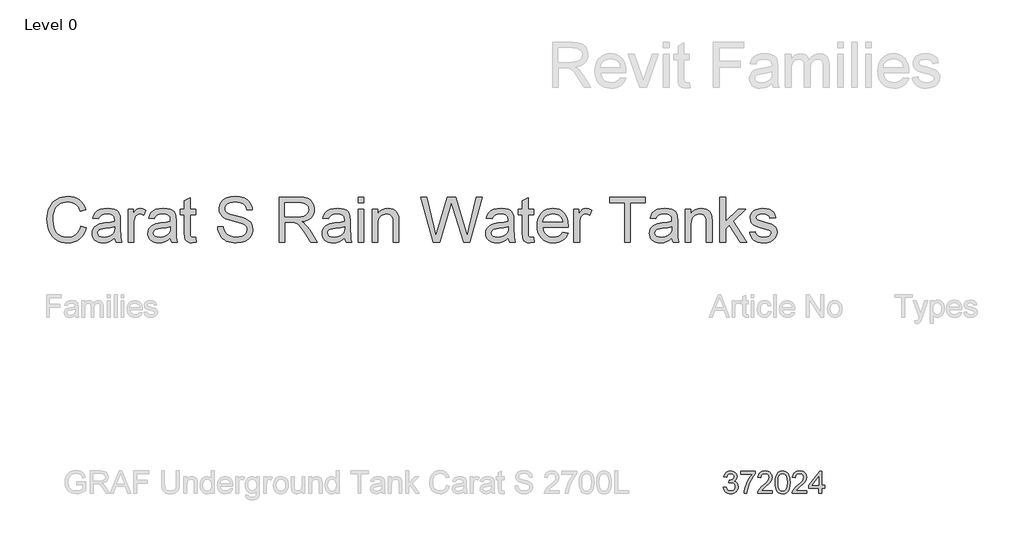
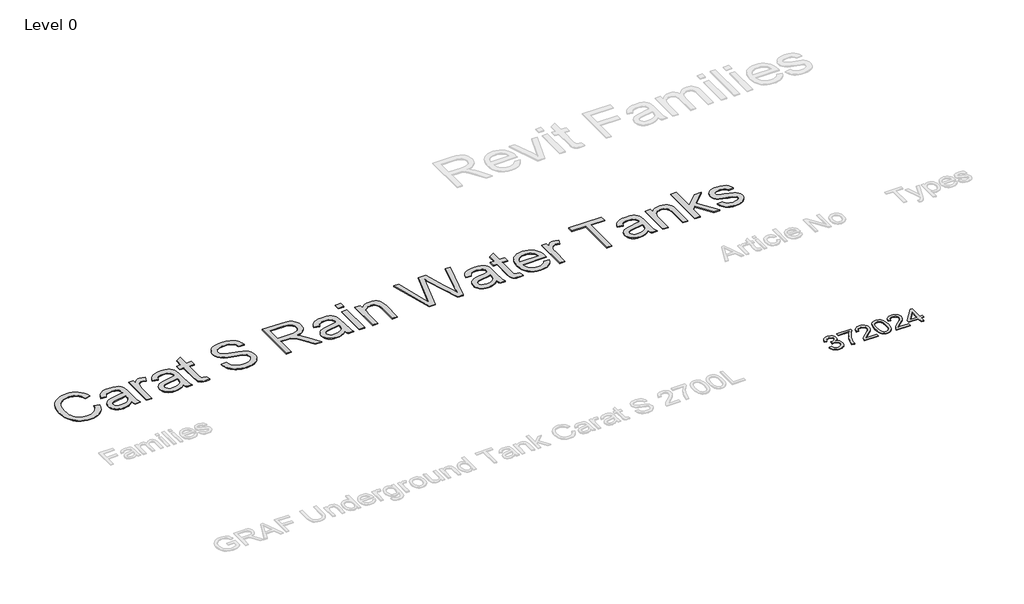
# One storey, part 19 of 20: 2 proxies.
"""IFC4 building model written with IfcOpenShell, lengths in millimetres."""

from ifc_helpers import new_model, si_unit, origin, origin_with_axes, place, context, project, spatial, polyline, outline, extrude, element, save

model = new_model("IFC4")

# Units and contexts
model_context = context("Model", 3, world=origin())
ifc_project = project(units=[si_unit("LENGTHUNIT", "METRE", prefix="MILLI")], contexts=[model_context])

# Site, building, storey
site = spatial("IfcSite", under=ifc_project)
building = spatial("IfcBuilding", under=site)
storey = spatial("IfcBuildingStorey", under=building, Name="Level 0", Elevation=0.0)

# Proxies
placement = place(None, origin())
element("IfcBuildingElementProxy", 1, Name="300mm Arial", ObjectType="300mm Arial", at=placement, inside=storey, context=model_context, shape_type="SweptSolid", body=[
    extrude(outline(polyline([(-6346.595864, 9379.074324), (-6308.9247477, 9383.7832135), (-6300.491053, 9360.1100071), (-6288.139415, 9344.1255344), (-6271.2628285, 9335.020455), (-6249.2542881, 9331.9854286), (-6223.428972, 9336.1608892), (-6203.4897679, 9348.6872712), (-6190.7426568, 9367.3756765), (-6186.4936197, 9390.0372074), (-6190.7058686, 9411.5491071), (-6203.3426151, 9428.9959107), (-6222.4724789, 9440.5566024), (-6246.1640793, 9444.4101663), (-6272.5780066, 9440.289888), (-6268.3841519, 9477.9610043), (-6262.3508871, 9477.5195459), (-6239.7813267, 9480.2234785), (-6219.6029993, 9488.3352765), (-6205.3659661, 9502.057275), (-6200.6202883, 9521.5918089), (-6204.059985, 9537.8613901), (-6214.379075, 9551.0591567), (-6230.1244244, 9559.8055512), (-6249.8428993, 9562.721016), (-6269.5981624, 9559.77796), (-6285.748182, 9550.9487921), (-6297.5388, 9536.2335123), (-6304.2158582, 9515.6321206), (-6341.8869745, 9520.3410101), (-6330.7953323, 9554.1677596), (-6311.0584633, 9579.4228585), (-6284.0559248, 9595.1498138), (-6251.1672745, 9600.3921323), (-6227.484871, 9597.8077613), (-6205.7338481, 9590.0546482), (-6187.3949306, 9577.8225719), (-6173.9488437, 9561.801311), (-6165.69909, 9543.3428319), (-6162.949172, 9523.7991009), (-6165.5611342, 9505.5889421), (-6173.3970207, 9489.0710405), (-6186.3464669, 9474.9995542), (-6204.2991083, 9464.1286413), (-6180.7178724, 9454.6004976), (-6163.2434776, 9438.3769016), (-6152.427747, 9416.3407701), (-6148.8225034, 9389.3750198), (-6150.6251252, 9370.2635502), (-6156.0329905, 9352.6603967), (-6165.0460994, 9336.5655594), (-6177.6644518, 9321.9790383), (-6193.0373207, 9309.8757207), (-6210.3139789, 9301.2304938), (-6229.4944264, 9296.0433577), (-6250.5786633, 9294.3143123), (-6269.6349506, 9295.7904388), (-6286.9989808, 9300.2188183), (-6302.6707538, 9307.5994508), (-6316.6502696, 9317.9323364), (-6328.3719097, 9330.6104696), (-6337.2700555, 9345.0268453), (-6343.3447069, 9361.1814634), (-6346.595864, 9379.074324)])), origin_with_axes(), (0.0, 0.0, 1.0), 10.0),
    extrude(outline(polyline([(-6115.8602767, 9558.0121264), (-6115.8602767, 9595.6832427), (-5918.086916, 9595.6832427), (-5918.086916, 9565.2226135), (-5946.2758739, 9529.547257), (-5974.1889203, 9484.17821), (-5998.8094228, 9433.2541448), (-6017.1207491, 9380.9137339), (-6026.0970698, 9341.7526956), (-6031.100265, 9299.0232018), (-6068.7713813, 9299.0232018), (-6064.6970882, 9337.8531464), (-6053.7985841, 9384.0039427), (-6036.3701745, 9432.923051), (-6012.7061652, 9480.0579316), (-5985.0782274, 9522.6678637), (-5955.7580324, 9558.0121264), (-6115.8602767, 9558.0121264)])), origin_with_axes(), (0.0, 0.0, 1.0), 10.0),
    extrude(outline(polyline([(-5692.0602182, 9336.6943181), (-5692.0602182, 9299.0232018), (-5889.8335788, 9299.0232018), (-5885.7868769, 9324.9956707), (-5876.4978565, 9345.2935598), (-5862.9046168, 9364.9844436), (-5843.2413241, 9385.5950323), (-5815.742145, 9408.6520364), (-5775.0911845, 9444.7596542), (-5750.7006082, 9471.4127048), (-5738.5053201, 9493.0441661), (-5734.4402241, 9514.0870162), (-5738.2753939, 9532.9501655), (-5749.7809033, 9548.6311355), (-5767.4668302, 9559.1985459), (-5789.8432525, 9562.721016), (-5813.341715, 9559.2813193), (-5831.597859, 9548.9622293), (-5843.3792799, 9532.5730865), (-5847.453573, 9510.923231), (-5885.1246893, 9515.6321206), (-5875.9920187, 9552.0708322), (-5867.4456601, 9566.6067695), (-5856.2459527, 9578.6870946), (-5842.6504137, 9588.1830486), (-5826.9165606, 9594.9658728), (-5789.0339121, 9600.3921323), (-5768.8440884, 9598.8838161), (-5750.8753522, 9594.3588675), (-5735.1277035, 9586.8172866), (-5721.6011424, 9576.2590734), (-5710.7371273, 9563.465977), (-5702.9771164, 9549.2197467), (-5698.3211099, 9533.5203826), (-5696.7691077, 9516.3678846), (-5698.4429708, 9498.3508639), (-5703.4645601, 9480.6465428), (-5712.3765014, 9462.6387192), (-5725.7214208, 9443.7111905), (-5746.9941971, 9421.114039), (-5779.6897095, 9392.0973466), (-5823.0262085, 9355.8609701), (-5840.0223567, 9336.6943181), (-5692.0602182, 9336.6943181)])), origin_with_axes(), (0.0, 0.0, 1.0), 10.0),
    extrude(outline(polyline([(-5654.3891019, 9447.2796459), (-5651.6207899, 9495.5181725), (-5643.3158539, 9533.9894321), (-5629.5570672, 9563.282036), (-5610.4272035, 9583.9845953), (-5585.7883069, 9596.290248), (-5555.5024216, 9600.3921323), (-5532.2890677, 9597.9641111), (-5511.503735, 9590.6800476), (-5494.1213107, 9578.8250503), (-5481.1166822, 9562.6842278), (-5471.2942329, 9542.3955357), (-5463.4583464, 9518.0969299), (-5458.3263926, 9487.2408276), (-5456.6157413, 9447.2796459), (-5459.3564622, 9399.3170308), (-5467.5786248, 9360.9377416), (-5481.2546379, 9331.6175466), (-5500.3569105, 9310.8322139), (-5525.0509895, 9298.4437877), (-5555.5024216, 9294.3143123), (-5576.2509661, 9296.107737), (-5594.6450659, 9301.4880112), (-5610.6847209, 9310.4551348), (-5624.3699311, 9323.0091079), (-5637.5033183, 9345.7028285), (-5646.8843092, 9373.9791583), (-5652.5129037, 9407.8380975), (-5654.3891019, 9447.2796459)]), holes=[polyline([(-5616.7179856, 9447.3532223), (-5612.3034017, 9388.0966299), (-5606.7851717, 9367.8286312), (-5599.0596498, 9353.8008309), (-5579.3411749, 9337.4392792), (-5555.5024216, 9331.9854286), (-5531.6636683, 9337.4576733), (-5511.9451934, 9353.8744073), (-5504.2196715, 9367.9252003), (-5498.7014415, 9388.1886004), (-5494.2868576, 9447.3532223), (-5498.5542887, 9505.2762424), (-5503.8885777, 9525.4775625), (-5511.3565822, 9539.8387559), (-5531.0382689, 9557.0004509), (-5555.94388, 9562.721016), (-5579.5251159, 9557.6810326), (-5598.4710386, 9542.5610826), (-5606.4540779, 9526.9260978), (-5612.1562489, 9505.8464595), (-5616.7179856, 9447.3532223)])]), origin_with_axes(), (0.0, 0.0, 1.0), 10.0),
    extrude(outline(polyline([(-5230.5890435, 9336.6943181), (-5230.5890435, 9299.0232018), (-5428.3624041, 9299.0232018), (-5424.3157021, 9324.9956707), (-5415.0266817, 9345.2935598), (-5401.433442, 9364.9844436), (-5381.7701494, 9385.5950323), (-5354.2709702, 9408.6520364), (-5313.6200098, 9444.7596542), (-5289.2294335, 9471.4127048), (-5277.0341454, 9493.0441661), (-5272.9690493, 9514.0870162), (-5276.8042191, 9532.9501655), (-5288.3097285, 9548.6311355), (-5305.9956554, 9559.1985459), (-5328.3720778, 9562.721016), (-5351.8705402, 9559.2813193), (-5370.1266842, 9548.9622293), (-5381.9081051, 9532.5730865), (-5385.9823982, 9510.923231), (-5423.6535145, 9515.6321206), (-5414.520844, 9552.0708322), (-5405.9744854, 9566.6067695), (-5394.7747779, 9578.6870946), (-5381.1792389, 9588.1830486), (-5365.4453858, 9594.9658728), (-5327.5627374, 9600.3921323), (-5307.3729136, 9598.8838161), (-5289.4041774, 9594.3588675), (-5273.6565288, 9586.8172866), (-5260.1299677, 9576.2590734), (-5249.2659525, 9563.465977), (-5241.5059417, 9549.2197467), (-5236.8499352, 9533.5203826), (-5235.297933, 9516.3678846), (-5236.9717961, 9498.3508639), (-5241.9933853, 9480.6465428), (-5250.9053266, 9462.6387192), (-5264.250246, 9443.7111905), (-5285.5230224, 9421.114039), (-5318.2185347, 9392.0973466), (-5361.5550337, 9355.8609701), (-5378.5511819, 9336.6943181), (-5230.5890435, 9336.6943181)])), origin_with_axes(), (0.0, 0.0, 1.0), 10.0),
    extrude(outline(polyline([(-5070.4867992, 9299.0232018), (-5070.4867992, 9369.6565449), (-5207.0445958, 9369.6565449), (-5207.0445958, 9407.3276612), (-5061.0690201, 9595.6832427), (-5032.8156829, 9595.6832427), (-5032.8156829, 9407.3276612), (-4995.1445665, 9407.3276612), (-4995.1445665, 9369.6565449), (-5032.8156829, 9369.6565449), (-5032.8156829, 9299.0232018), (-5070.4867992, 9299.0232018)]), holes=[polyline([(-5070.4867992, 9407.3276612), (-5070.4867992, 9523.7255245), (-5160.6914644, 9407.3276612), (-5070.4867992, 9407.3276612)])]), origin_with_axes(), (0.0, 0.0, 1.0), 10.0),
])
element("IfcBuildingElementProxy", 2, Name="600mm Arial", ObjectType="600mm Arial", at=placement, inside=storey, context=model_context, shape_type="SweptSolid", body=[
    extrude(outline(polyline([(-14925.4984397, 12868.0819293), (-14850.1562071, 12848.65776), (-14865.0646249, 12801.8033894), (-14884.9210556, 12760.8627218), (-14909.7254991, 12725.8357574), (-14939.4779555, 12696.722496), (-14973.50704, 12673.8356373), (-15011.1413681, 12657.4878812), (-15052.3809398, 12647.6792275), (-15097.225755, 12644.4096763), (-15143.1696177, 12646.8836827), (-15184.616123, 12654.3057019), (-15221.5652709, 12666.675734), (-15254.0170614, 12683.9937789), (-15282.4175514, 12706.0023193), (-15307.2127979, 12732.4438377), (-15328.4028008, 12763.3183341), (-15345.9875602, 12798.6258086), (-15359.7969306, 12836.8395509), (-15369.6607665, 12876.4328506), (-15375.5790681, 12917.4057078), (-15377.5518353, 12959.7581225), (-15375.3215507, 13005.200746), (-15368.630697, 13047.6451312), (-15357.479274, 13087.0912781), (-15341.8672818, 13123.5391868), (-15322.1442083, 13156.3864504), (-15298.6595415, 13185.0306623), (-15271.4132812, 13209.4718223), (-15240.4054275, 13229.7099306), (-15206.6890427, 13245.5794402), (-15171.3171888, 13256.9148041), (-15134.289866, 13263.7160225), (-15095.6070742, 13265.9830953), (-15052.514297, 13263.0492364), (-15012.9991722, 13254.2476597), (-14977.0616998, 13239.5783651), (-14944.7018798, 13219.0413527), (-14916.4531411, 13193.1792485), (-14892.8489126, 13162.5346783), (-14873.8891943, 13127.1076421), (-14859.5739861, 13086.8981401), (-14934.9162187, 13068.9454987), (-14946.7804131, 13098.5737949), (-14961.0358404, 13123.8886747), (-14977.6825007, 13144.8901381), (-14996.7203939, 13161.5781851), (-15018.2598848, 13174.2931065), (-15042.4113377, 13183.3751933), (-15069.1747529, 13188.8244453), (-15098.5501302, 13190.6408627), (-15132.3492885, 13188.6267088), (-15163.2605732, 13182.584247), (-15191.2839841, 13172.5134774), (-15216.4195215, 13158.4143999), (-15238.3498869, 13140.921611), (-15256.7577822, 13120.6697072), (-15271.6432075, 13097.6586884), (-15283.0061626, 13071.8885547), (-15297.4087427, 13016.7430436), (-15302.2096027, 12959.9052753), (-15296.5258259, 12890.3020018), (-15289.4211049, 12859.0320322), (-15279.4744954, 12830.1165074), (-15266.5250492, 12804.130243), (-15250.4118178, 12781.6480546), (-15231.1348013, 12762.6699421), (-15208.6939996, 12747.1959057), (-15184.1792631, 12735.1891571), (-15158.6804423, 12726.6129081), (-15132.1975372, 12721.4671587), (-15104.7305477, 12719.7519089), (-15071.9752546, 12722.0879595), (-15041.8411206, 12729.0961115), (-15014.3281459, 12740.7763649), (-14989.4363304, 12757.1287196), (-14967.7542853, 12778.0795992), (-14949.8706219, 12803.5554274), (-14935.78534, 12833.5562041), (-14925.4984397, 12868.0819293)])), origin_with_axes(), (0.0, 0.0, 1.0), 10.0),
    extrude(outline(polyline([(-14473.445044, 12710.3341298), (-14509.4422972, 12679.4688304), (-14546.5064082, 12659.2721089), (-14585.4835056, 12648.1252844), (-14627.219718, 12644.4096763), (-14660.7659574, 12646.6445594), (-14690.1827215, 12653.3492087), (-14715.4700101, 12664.5236243), (-14736.6278233, 12680.1678062), (-14753.3342645, 12699.2884729), (-14765.2674367, 12720.8923431), (-14772.42734, 12744.9794167), (-14774.8139744, 12771.5496938), (-14771.2087309, 12802.7828752), (-14760.3930002, 12831.146577), (-14743.7095518, 12855.4267887), (-14722.5011547, 12874.4094996), (-14697.5771496, 12888.7568975), (-14669.7468766, 12899.1311697), (-14604.5581871, 12910.4619352), (-14527.5236973, 12922.3813118), (-14473.8865024, 12936.3608276), (-14473.445044, 12953.1362466), (-14478.6321801, 12986.760661), (-14485.1161003, 12999.2134665), (-14494.1935885, 13008.7600043), (-14509.8837556, 13018.288148), (-14528.9952253, 13025.0939649), (-14577.4820722, 13030.5386184), (-14622.3636756, 13026.9149807), (-14653.7072216, 13016.0440678), (-14675.0811656, 12995.9393167), (-14690.0539628, 12964.6141649), (-14765.3961954, 12974.0319439), (-14752.3179904, 13015.2347274), (-14732.8018506, 13047.608343), (-14705.02676, 13072.3668012), (-14667.1717027, 13090.7241128), (-14620.8737536, 13102.0916665), (-14567.7699876, 13105.880851), (-14516.8367253, 13102.5331249), (-14476.4616764, 13092.4899464), (-14446.0194413, 13077.3883905), (-14424.8846206, 13058.865532), (-14410.8683166, 13035.9648778), (-14401.7816313, 13007.7299347), (-14398.1028114, 12941.8054812), (-14398.1028114, 12848.0691488), (-14394.2768386, 12717.1767349), (-14388.6114559, 12684.8215134), (-14379.2672532, 12653.8274553), (-14454.6094858, 12653.8274553), (-14466.6760153, 12680.0206534), (-14473.445044, 12710.3341298)]), holes=[polyline([(-14473.445044, 12861.018595), (-14524.0656065, 12848.473819), (-14594.9932552, 12837.9156057), (-14659.8140628, 12825.7019235), (-14676.6814522, 12817.3510022), (-14689.171046, 12805.8362957), (-14696.8965679, 12792.0407209), (-14699.4717418, 12776.8471945), (-14693.8615414, 12754.443181), (-14677.0309401, 12736.0858695), (-14649.34782, 12723.835399), (-14611.180063, 12719.7519089), (-14570.7130435, 12724.2584633), (-14534.9549136, 12737.7781266), (-14505.9658124, 12757.6989367), (-14485.805879, 12781.4089313), (-14476.8663466, 12805.8362957), (-14473.8865024, 12839.6814393), (-14473.445044, 12861.018595)])]), origin_with_axes(), (0.0, 0.0, 1.0), 10.0),
    extrude(outline(polyline([(-14294.5072415, 12653.8274553), (-14294.5072415, 13096.4630719), (-14228.582788, 13096.4630719), (-14228.582788, 13030.9800768), (-14204.2289999, 13068.9454987), (-14181.7881982, 13091.312724), (-14159.2738201, 13102.2388193), (-14134.6993028, 13105.880851), (-14097.1753393, 13100.0683155), (-14059.0627646, 13082.6307089), (-14084.2258931, 13015.0875746), (-14110.7133968, 13026.6758574), (-14137.2009004, 13030.5386184), (-14159.6968844, 13026.8230102), (-14179.8016354, 13015.6761858), (-14196.0436255, 12997.9442736), (-14206.9513267, 12974.4734023), (-14216.1115884, 12932.3877021), (-14219.1650089, 12886.4760291), (-14219.1650089, 12653.8274553), (-14294.5072415, 12653.8274553)])), origin_with_axes(), (0.0, 0.0, 1.0), 10.0),
    extrude(outline(polyline([(-13729.440497, 12710.3341298), (-13765.4377502, 12679.4688304), (-13802.5018612, 12659.2721089), (-13841.4789586, 12648.1252844), (-13883.2151709, 12644.4096763), (-13916.7614104, 12646.6445594), (-13946.1781744, 12653.3492087), (-13971.4654631, 12664.5236243), (-13992.6232763, 12680.1678062), (-14009.3297174, 12699.2884729), (-14021.2628896, 12720.8923431), (-14028.422793, 12744.9794167), (-14030.8094274, 12771.5496938), (-14027.2041838, 12802.7828752), (-14016.3884532, 12831.146577), (-13999.7050047, 12855.4267887), (-13978.4966077, 12874.4094996), (-13953.5726025, 12888.7568975), (-13925.7423296, 12899.1311697), (-13860.55364, 12910.4619352), (-13783.5191502, 12922.3813118), (-13729.8819553, 12936.3608276), (-13729.440497, 12953.1362466), (-13734.6276331, 12986.760661), (-13741.1115533, 12999.2134665), (-13750.1890415, 13008.7600043), (-13765.8792086, 13018.288148), (-13784.9906782, 13025.0939649), (-13833.4775252, 13030.5386184), (-13878.3591286, 13026.9149807), (-13909.7026746, 13016.0440678), (-13931.0766185, 12995.9393167), (-13946.0494157, 12964.6141649), (-14021.3916483, 12974.0319439), (-14008.3134434, 13015.2347274), (-13988.7973036, 13047.608343), (-13961.0222129, 13072.3668012), (-13923.1671556, 13090.7241128), (-13876.8692065, 13102.0916665), (-13823.7654405, 13105.880851), (-13772.8321783, 13102.5331249), (-13732.4571293, 13092.4899464), (-13702.0148942, 13077.3883905), (-13680.8800736, 13058.865532), (-13666.8637696, 13035.9648778), (-13657.7770843, 13007.7299347), (-13654.0982643, 12941.8054812), (-13654.0982643, 12848.0691488), (-13650.2722916, 12717.1767349), (-13644.6069089, 12684.8215134), (-13635.2627062, 12653.8274553), (-13710.6049388, 12653.8274553), (-13722.6714682, 12680.0206534), (-13729.440497, 12710.3341298)]), holes=[polyline([(-13729.440497, 12861.018595), (-13780.0610595, 12848.473819), (-13850.9887082, 12837.9156057), (-13915.8095157, 12825.7019235), (-13932.6769052, 12817.3510022), (-13945.1664989, 12805.8362957), (-13952.8920208, 12792.0407209), (-13955.4671948, 12776.8471945), (-13949.8569944, 12754.443181), (-13933.0263931, 12736.0858695), (-13905.3432729, 12723.835399), (-13867.1755159, 12719.7519089), (-13826.7084965, 12724.2584633), (-13790.9503665, 12737.7781266), (-13761.9612653, 12757.6989367), (-13741.801332, 12781.4089313), (-13732.8617995, 12805.8362957), (-13729.8819553, 12839.6814393), (-13729.440497, 12861.018595)])]), origin_with_axes(), (0.0, 0.0, 1.0), 10.0),
    extrude(outline(polyline([(-13390.4004502, 12716.6617001), (-13380.9826711, 12651.6201634), (-13437.3421928, 12644.4096763), (-13473.5049929, 12647.5366732), (-13500.4707432, 12656.9176641), (-13519.5270305, 12671.3754265), (-13531.9614419, 12689.7327381), (-13538.8040471, 12721.2602251), (-13541.0849154, 12775.2285137), (-13541.0849154, 13021.1208393), (-13597.5915899, 13021.1208393), (-13597.5915899, 13096.4630719), (-13541.0849154, 13096.4630719), (-13541.0849154, 13204.0317673), (-13465.7426828, 13248.3247595), (-13465.7426828, 13096.4630719), (-13390.4004502, 13096.4630719), (-13390.4004502, 13021.1208393), (-13465.7426828, 13021.1208393), (-13465.7426828, 12777.4358057), (-13461.7695573, 12738.587467), (-13448.8936874, 12724.8286804), (-13438.0227745, 12721.0211018), (-13423.2155242, 12719.7519089), (-13390.4004502, 12716.6617001)])), origin_with_axes(), (0.0, 0.0, 1.0), 10.0),
    extrude(outline(polyline([(-13098.4492988, 12861.018595), (-13023.1070662, 12861.018595), (-13014.4618393, 12819.2088063), (-12998.8268545, 12785.602786), (-12974.4362783, 12758.9313414), (-12939.5242769, 12737.9252794), (-12896.8499655, 12724.2952515), (-12849.1724589, 12719.7519089), (-12807.1971232, 12723.1916055), (-12770.4457119, 12733.5106955), (-12740.6656644, 12749.8446561), (-12719.6044202, 12771.3289646), (-12707.0780383, 12795.9954524), (-12702.9025776, 12821.8759507), (-12706.0295746, 12847.0942615), (-12715.4105654, 12868.8912697), (-12734.4668528, 12887.4877046), (-12766.6197392, 12903.1042953), (-12876.3221501, 12931.8726673), (-12948.3350507, 12950.9105605), (-12994.4122706, 12969.0287488), (-13031.91784, 12994.3758183), (-13058.4973142, 13025.0939649), (-13074.334634, 13060.521001), (-13079.6137407, 13099.9947391), (-13077.9812643, 13122.4309423), (-13073.0838353, 13144.1221844), (-13064.9214535, 13165.0684655), (-13053.494119, 13185.2697856), (-13038.9305905, 13203.9030086), (-13021.3596267, 13220.1449987), (-13000.7812276, 13233.9957558), (-12977.1953932, 13245.45528), (-12924.1835977, 13260.8511415), (-12865.5064195, 13265.9830953), (-12801.9364107, 13260.6120182), (-12746.312653, 13244.4987868), (-12721.9772591, 13232.4966367), (-12700.6217092, 13217.9744949), (-12682.2460036, 13200.9323615), (-12666.8501421, 13181.3702364), (-12654.5536864, 13159.8583368), (-12645.4761982, 13136.9668796), (-12639.6176774, 13112.695865), (-12636.9781241, 13087.0452929), (-12712.3203567, 13087.0452929), (-12717.36034, 13111.0863812), (-12726.1527197, 13132.0004727), (-12738.6974957, 13149.7875671), (-12754.9946681, 13164.4476646), (-12775.3477395, 13175.9071888), (-12800.0602125, 13184.0925632), (-12829.1320872, 13189.0037878), (-12862.5633635, 13190.6408627), (-12897.0614976, 13189.0221819), (-12926.5380425, 13184.1661396), (-12950.9929981, 13176.0727357), (-12970.4263645, 13164.7419702), (-12985.2336148, 13151.1211394), (-12995.8102222, 13136.1575392), (-13002.1561866, 13119.8511698), (-13004.2715081, 13102.2020311), (-13002.7723889, 13087.0177017), (-12998.2750315, 13073.249718), (-12990.7794359, 13060.89808), (-12980.285602, 13049.9627877), (-12963.7677004, 13039.6069096), (-12937.7584433, 13029.1406668), (-12857.2658628, 13007.8770875), (-12774.1981083, 12987.680366), (-12723.9454277, 12970.0588184), (-12680.9952048, 12942.7251861), (-12664.3899312, 12926.65794), (-12651.0312163, 12908.9904072), (-12640.7627101, 12889.8145582), (-12633.4280628, 12869.2223635), (-12627.560345, 12823.7889371), (-12629.2480037, 12800.2214968), (-12634.3109796, 12777.3438352), (-12642.7492729, 12755.1559524), (-12654.5628834, 12733.6578483), (-12669.5448777, 12713.681856), (-12687.488322, 12696.0603084), (-12708.3932164, 12680.7932056), (-12732.2595608, 12667.8805476), (-12758.3929781, 12657.6120414), (-12786.0990908, 12650.2773941), (-12846.2294029, 12644.4096763), (-12884.7696405, 12645.9915688), (-12920.0449253, 12650.7372466), (-12952.0552574, 12658.6467095), (-12980.8006368, 12669.7199575), (-13006.4558074, 12683.9753848), (-13029.1955132, 12701.4313855), (-13049.0197542, 12722.0879595), (-13065.9285305, 12745.9451069), (-13079.5493613, 12772.2302755), (-13089.5097663, 12800.170913), (-13095.8097455, 12829.7670195), (-13098.4492988, 12861.018595)])), origin_with_axes(), (0.0, 0.0, 1.0), 10.0),
    extrude(outline(polyline([(-12279.1025192, 12653.8274553), (-12279.1025192, 13256.5653162), (-12019.3778306, 13256.5653162), (-11949.572222, 13252.5002202), (-11898.7861126, 13240.304932), (-11879.1871993, 13230.6112415), (-11861.6668192, 13217.7905539), (-11846.2249725, 13201.8428694), (-11832.861659, 13182.768188), (-11822.078118, 13161.5919807), (-11814.3755888, 13139.3397185), (-11809.7540712, 13116.0114015), (-11808.2135653, 13091.6070296), (-11810.7657467, 13060.6497597), (-11818.4222907, 13032.2308756), (-11831.1831974, 13006.3503772), (-11849.0484668, 12983.0082646), (-11872.2480251, 12962.9494988), (-11901.0117986, 12946.9190409), (-11935.3397873, 12934.9168908), (-11975.2319912, 12926.9430486), (-11950.3999565, 12910.7194526), (-11932.4105269, 12894.7165858), (-11901.5452275, 12858.1123273), (-11871.3421157, 12817.1670612), (-11770.8367546, 12653.8274553), (-11858.3926695, 12653.8274553), (-11936.8251109, 12778.7601809), (-11993.4789381, 12861.4600534), (-12014.5401823, 12885.5747182), (-12033.28377, 12900.5291213), (-12069.1154763, 12914.8765191), (-12112.8198573, 12917.5252695), (-12203.7602866, 12917.5252695), (-12203.7602866, 12653.8274553), (-12279.1025192, 12653.8274553)]), holes=[polyline([(-12203.7602866, 12992.8675021), (-12035.12318, 12992.8675021), (-11986.6915153, 12995.5346466), (-11949.1123695, 13003.5360799), (-11920.8222441, 13017.4052312), (-11900.2576405, 13037.6755291), (-11887.7312586, 13062.1948641), (-11883.555798, 13088.8111264), (-11885.5469593, 13108.0789459), (-11891.5204432, 13125.5625378), (-11901.4762496, 13141.2619019), (-11915.4143787, 13155.1770384), (-11933.6567272, 13166.5721832), (-11956.5251917, 13174.7115723), (-11984.0197723, 13179.5952058), (-12016.140469, 13181.2230836), (-12203.7602866, 13181.2230836), (-12203.7602866, 12992.8675021)])]), origin_with_axes(), (0.0, 0.0, 1.0), 10.0),
    extrude(outline(polyline([(-11403.2490651, 12710.3341298), (-11439.2463183, 12679.4688304), (-11476.3104293, 12659.2721089), (-11515.2875267, 12648.1252844), (-11557.023739, 12644.4096763), (-11590.5699785, 12646.6445594), (-11619.9867425, 12653.3492087), (-11645.2740312, 12664.5236243), (-11666.4318444, 12680.1678062), (-11683.1382855, 12699.2884729), (-11695.0714577, 12720.8923431), (-11702.2313611, 12744.9794167), (-11704.6179955, 12771.5496938), (-11701.0127519, 12802.7828752), (-11690.1970213, 12831.146577), (-11673.5135728, 12855.4267887), (-11652.3051758, 12874.4094996), (-11627.3811706, 12888.7568975), (-11599.5508977, 12899.1311697), (-11534.3622081, 12910.4619352), (-11457.3277183, 12922.3813118), (-11403.6905234, 12936.3608276), (-11403.2490651, 12953.1362466), (-11408.4362012, 12986.760661), (-11414.9201213, 12999.2134665), (-11423.9976096, 13008.7600043), (-11439.6877767, 13018.288148), (-11458.7992463, 13025.0939649), (-11507.2860933, 13030.5386184), (-11552.1676967, 13026.9149807), (-11583.5112427, 13016.0440678), (-11604.8851866, 12995.9393167), (-11619.8579838, 12964.6141649), (-11695.2002164, 12974.0319439), (-11682.1220115, 13015.2347274), (-11662.6058717, 13047.608343), (-11634.830781, 13072.3668012), (-11596.9757237, 13090.7241128), (-11550.6777746, 13102.0916665), (-11497.5740086, 13105.880851), (-11446.6407464, 13102.5331249), (-11406.2656974, 13092.4899464), (-11375.8234623, 13077.3883905), (-11354.6886417, 13058.865532), (-11340.6723377, 13035.9648778), (-11331.5856524, 13007.7299347), (-11327.9068324, 12941.8054812), (-11327.9068324, 12848.0691488), (-11324.0808597, 12717.1767349), (-11318.415477, 12684.8215134), (-11309.0712743, 12653.8274553), (-11384.4135069, 12653.8274553), (-11396.4800363, 12680.0206534), (-11403.2490651, 12710.3341298)]), holes=[polyline([(-11403.2490651, 12861.018595), (-11453.8696276, 12848.473819), (-11524.7972763, 12837.9156057), (-11589.6180838, 12825.7019235), (-11606.4854733, 12817.3510022), (-11618.975067, 12805.8362957), (-11626.7005889, 12792.0407209), (-11629.2757629, 12776.8471945), (-11623.6655625, 12754.443181), (-11606.8349612, 12736.0858695), (-11579.151841, 12723.835399), (-11540.984084, 12719.7519089), (-11500.5170646, 12724.2584633), (-11464.7589346, 12737.7781266), (-11435.7698334, 12757.6989367), (-11415.6099001, 12781.4089313), (-11406.6703676, 12805.8362957), (-11403.6905234, 12839.6814393), (-11403.2490651, 12861.018595)])]), origin_with_axes(), (0.0, 0.0, 1.0), 10.0),
    extrude(outline(polyline([(-11224.3112626, 13181.2230836), (-11224.3112626, 13256.5653162), (-11148.96903, 13256.5653162), (-11148.96903, 13181.2230836), (-11224.3112626, 13181.2230836)])), origin_with_axes(), (0.0, 0.0, 1.0), 10.0),
    extrude(outline(polyline([(-11224.3112626, 12653.8274553), (-11224.3112626, 13096.4630719), (-11148.96903, 13096.4630719), (-11148.96903, 12653.8274553), (-11224.3112626, 12653.8274553)])), origin_with_axes(), (0.0, 0.0, 1.0), 10.0),
    extrude(outline(polyline([(-11035.9556811, 12653.8274553), (-11035.9556811, 13096.4630719), (-10960.6134485, 13096.4630719), (-10960.6134485, 13034.6588967), (-10934.4386445, 13065.8185017), (-10903.003128, 13088.0753624), (-10866.306899, 13101.4294789), (-10824.3499574, 13105.880851), (-10787.21227, 13102.2940016), (-10753.2015796, 13091.5334532), (-10724.8378777, 13074.9419752), (-10704.6411562, 13053.8623369), (-10690.9375519, 13028.3497205), (-10682.0532017, 12998.4593084), (-10678.0800762, 12925.6186734), (-10678.0800762, 12653.8274553), (-10753.4223088, 12653.8274553), (-10753.4223088, 12915.4651303), (-10755.5928125, 12954.4238336), (-10762.1043239, 12982.1253478), (-10774.115671, 13001.9725815), (-10792.7856823, 13017.368443), (-10816.716406, 13027.2460745), (-10844.5098908, 13030.5386184), (-10867.3875524, 13028.6900114), (-10888.6373361, 13023.1441903), (-10908.259242, 13013.9011552), (-10926.2532701, 13000.960906), (-10941.2858481, 12982.8519148), (-10952.0234039, 12958.1026535), (-10958.4659373, 12926.7131223), (-10960.6134485, 12888.6833211), (-10960.6134485, 12653.8274553), (-11035.9556811, 12653.8274553)])), origin_with_axes(), (0.0, 0.0, 1.0), 10.0),
    extrude(outline(polyline([(-10221.7592493, 12653.8274553), (-10386.1289248, 13256.5653162), (-10308.4322474, 13256.5653162), (-10213.0772343, 12860.4299838), (-10183.6466746, 12738.1460086), (-10152.1559759, 12846.3033152), (-10032.6679038, 13256.5653162), (-9920.6846245, 13256.5653162), (-9833.8644736, 12959.1695113), (-9796.6716039, 12848.8049128), (-9769.2643953, 12738.1460086), (-9740.7167524, 12856.8983167), (-9644.4788225, 13256.5653162), (-9566.7821451, 13256.5653162), (-9731.2989734, 12653.8274553), (-9811.7915539, 12653.8274553), (-9956.2956016, 13118.8302972), (-9976.455535, 13183.7246812), (-9999.1170659, 13105.5865454), (-10130.8188201, 12653.8274553), (-10221.7592493, 12653.8274553)])), origin_with_axes(), (0.0, 0.0, 1.0), 10.0),
    extrude(outline(polyline([(-9218.3243193, 12710.3341298), (-9254.3215725, 12679.4688304), (-9291.3856835, 12659.2721089), (-9330.3627809, 12648.1252844), (-9372.0989933, 12644.4096763), (-9405.6452327, 12646.6445594), (-9435.0619968, 12653.3492087), (-9460.3492854, 12664.5236243), (-9481.5070986, 12680.1678062), (-9498.2135398, 12699.2884729), (-9510.146712, 12720.8923431), (-9517.3066153, 12744.9794167), (-9519.6932497, 12771.5496938), (-9516.0880062, 12802.7828752), (-9505.2722755, 12831.146577), (-9488.5888271, 12855.4267887), (-9467.38043, 12874.4094996), (-9442.4564249, 12888.7568975), (-9414.6261519, 12899.1311697), (-9349.4374624, 12910.4619352), (-9272.4029726, 12922.3813118), (-9218.7657777, 12936.3608276), (-9218.3243193, 12953.1362466), (-9223.5114554, 12986.760661), (-9229.9953756, 12999.2134665), (-9239.0728638, 13008.7600043), (-9254.7630309, 13018.288148), (-9273.8745006, 13025.0939649), (-9322.3613475, 13030.5386184), (-9367.2429509, 13026.9149807), (-9398.5864969, 13016.0440678), (-9419.9604409, 12995.9393167), (-9434.9332381, 12964.6141649), (-9510.2754707, 12974.0319439), (-9497.1972657, 13015.2347274), (-9477.6811259, 13047.608343), (-9449.9060353, 13072.3668012), (-9412.050978, 13090.7241128), (-9365.7530289, 13102.0916665), (-9312.6492629, 13105.880851), (-9261.7160006, 13102.5331249), (-9221.3409517, 13092.4899464), (-9190.8987166, 13077.3883905), (-9169.7638959, 13058.865532), (-9155.7475919, 13035.9648778), (-9146.6609066, 13007.7299347), (-9142.9820867, 12941.8054812), (-9142.9820867, 12848.0691488), (-9139.1561139, 12717.1767349), (-9133.4907312, 12684.8215134), (-9124.1465285, 12653.8274553), (-9199.4887611, 12653.8274553), (-9211.5552906, 12680.0206534), (-9218.3243193, 12710.3341298)]), holes=[polyline([(-9218.3243193, 12861.018595), (-9268.9448818, 12848.473819), (-9339.8725305, 12837.9156057), (-9404.6933381, 12825.7019235), (-9421.5607275, 12817.3510022), (-9434.0503213, 12805.8362957), (-9441.7758432, 12792.0407209), (-9444.3510171, 12776.8471945), (-9438.7408167, 12754.443181), (-9421.9102154, 12736.0858695), (-9394.2270953, 12723.835399), (-9356.0593383, 12719.7519089), (-9315.5923188, 12724.2584633), (-9279.8341889, 12737.7781266), (-9250.8450877, 12757.6989367), (-9230.6851543, 12781.4089313), (-9221.7456219, 12805.8362957), (-9218.7657777, 12839.6814393), (-9218.3243193, 12861.018595)])]), origin_with_axes(), (0.0, 0.0, 1.0), 10.0),
    extrude(outline(polyline([(-8879.2842725, 12716.6617001), (-8869.8664935, 12651.6201634), (-8926.2260151, 12644.4096763), (-8962.3888153, 12647.5366732), (-8989.3545655, 12656.9176641), (-9008.4108528, 12671.3754265), (-9020.8452643, 12689.7327381), (-9027.6878694, 12721.2602251), (-9029.9687378, 12775.2285137), (-9029.9687378, 13021.1208393), (-9086.4754122, 13021.1208393), (-9086.4754122, 13096.4630719), (-9029.9687378, 13096.4630719), (-9029.9687378, 13204.0317673), (-8954.6265052, 13248.3247595), (-8954.6265052, 13096.4630719), (-8879.2842725, 13096.4630719), (-8879.2842725, 13021.1208393), (-8954.6265052, 13021.1208393), (-8954.6265052, 12777.4358057), (-8950.6533796, 12738.587467), (-8937.7775098, 12724.8286804), (-8926.9065968, 12721.0211018), (-8912.0993465, 12719.7519089), (-8879.2842725, 12716.6617001)])), origin_with_axes(), (0.0, 0.0, 1.0), 10.0),
    extrude(outline(polyline([(-8494.0382472, 12785.6763624), (-8420.1675426, 12776.2585833), (-8431.4937095, 12746.6716739), (-8446.7838049, 12720.5980375), (-8466.0378288, 12698.0376741), (-8489.2557813, 12678.9905838), (-8516.1985389, 12663.8614368), (-8546.6269784, 12653.0549031), (-8580.5410998, 12646.570983), (-8617.9409032, 12644.4096763), (-8664.6895077, 12648.13908), (-8706.3429466, 12659.3272912), (-8742.9012199, 12677.9743098), (-8774.3643275, 12704.0801359), (-8799.6654117, 12736.9182025), (-8817.7376147, 12775.7619426), (-8828.5809366, 12820.6113564), (-8832.1953772, 12871.4664437), (-8828.5441484, 12924.0459778), (-8817.590462, 12970.3899122), (-8799.3343179, 13010.4982467), (-8773.7757163, 13044.3709814), (-8742.3953821, 13071.2815494), (-8706.6740404, 13090.5033836), (-8666.6116911, 13102.0364842), (-8622.2083343, 13105.880851), (-8579.2351188, 13102.0456812), (-8540.3729845, 13090.5401718), (-8505.6219315, 13071.3643228), (-8474.9819598, 13044.5181342), (-8449.9705827, 13010.7189759), (-8432.1053133, 12970.6842178), (-8421.3861517, 12924.4138598), (-8417.8130978, 12871.9079021), (-8418.2545562, 12851.6008159), (-8756.8531445, 12851.6008159), (-8752.4891444, 12821.5356599), (-8743.8117278, 12795.2045061), (-8730.8208949, 12772.6073545), (-8713.5166455, 12753.7442052), (-8692.855473, 12738.8725756), (-8669.7938704, 12728.249983), (-8644.3318378, 12721.8764274), (-8616.4693752, 12719.7519089), (-8576.3702377, 12723.6882462), (-8542.5986706, 12735.4972583), (-8515.1546737, 12755.914709), (-8494.0382472, 12785.6763624)]), holes=[polyline([(-8756.8531445, 12926.9430486), (-8493.1553304, 12926.9430486), (-8503.3456617, 12966.7478804), (-8512.1104502, 12982.4012593), (-8523.321654, 12995.2219469), (-8543.8678634, 13010.6729907), (-8567.2467642, 13021.7094505), (-8593.4583564, 13028.3313264), (-8622.5026399, 13030.5386184), (-8648.9947421, 13028.7773833), (-8673.2887493, 13023.4936782), (-8695.3846617, 13014.6875029), (-8715.2824791, 13002.3588576), (-8731.9797231, 12987.0779592), (-8744.4739154, 12969.4150249), (-8752.7650559, 12949.3700547), (-8756.8531445, 12926.9430486)])]), origin_with_axes(), (0.0, 0.0, 1.0), 10.0),
    extrude(outline(polyline([(-8342.4708652, 12653.8274553), (-8342.4708652, 13096.4630719), (-8276.5464116, 13096.4630719), (-8276.5464116, 13030.9800768), (-8252.1926236, 13068.9454987), (-8229.7518219, 13091.312724), (-8207.2374438, 13102.2388193), (-8182.6629265, 13105.880851), (-8145.138963, 13100.0683155), (-8107.0263883, 13082.6307089), (-8132.1895167, 13015.0875746), (-8158.6770204, 13026.6758574), (-8185.164524, 13030.5386184), (-8207.660508, 13026.8230102), (-8227.7652591, 13015.6761858), (-8244.0072492, 12997.9442736), (-8254.9149503, 12974.4734023), (-8264.075212, 12932.3877021), (-8267.1286326, 12886.4760291), (-8267.1286326, 12653.8274553), (-8342.4708652, 12653.8274553)])), origin_with_axes(), (0.0, 0.0, 1.0), 10.0),
    extrude(outline(polyline([(-7664.3907717, 12653.8274553), (-7664.3907717, 13181.2230836), (-7862.1641323, 13181.2230836), (-7862.1641323, 13256.5653162), (-7391.2751785, 13256.5653162), (-7391.2751785, 13181.2230836), (-7589.0485391, 13181.2230836), (-7589.0485391, 12653.8274553), (-7664.3907717, 12653.8274553)])), origin_with_axes(), (0.0, 0.0, 1.0), 10.0),
    extrude(outline(polyline([(-7033.3995735, 12710.3341298), (-7069.3968268, 12679.4688304), (-7106.4609378, 12659.2721089), (-7145.4380352, 12648.1252844), (-7187.1742475, 12644.4096763), (-7220.720487, 12646.6445594), (-7250.137251, 12653.3492087), (-7275.4245396, 12664.5236243), (-7296.5823529, 12680.1678062), (-7313.288794, 12699.2884729), (-7325.2219662, 12720.8923431), (-7332.3818695, 12744.9794167), (-7334.768504, 12771.5496938), (-7331.1632604, 12802.7828752), (-7320.3475298, 12831.146577), (-7303.6640813, 12855.4267887), (-7282.4556843, 12874.4094996), (-7257.5316791, 12888.7568975), (-7229.7014062, 12899.1311697), (-7164.5127166, 12910.4619352), (-7087.4782268, 12922.3813118), (-7033.8410319, 12936.3608276), (-7033.3995735, 12953.1362466), (-7038.5867097, 12986.760661), (-7045.0706298, 12999.2134665), (-7054.1481181, 13008.7600043), (-7069.8382852, 13018.288148), (-7088.9497548, 13025.0939649), (-7137.4366018, 13030.5386184), (-7182.3182052, 13026.9149807), (-7213.6617512, 13016.0440678), (-7235.0356951, 12995.9393167), (-7250.0084923, 12964.6141649), (-7325.3507249, 12974.0319439), (-7312.27252, 13015.2347274), (-7292.7563801, 13047.608343), (-7264.9812895, 13072.3668012), (-7227.1262322, 13090.7241128), (-7180.8282831, 13102.0916665), (-7127.7245171, 13105.880851), (-7076.7912549, 13102.5331249), (-7036.4162059, 13092.4899464), (-7005.9739708, 13077.3883905), (-6984.8391502, 13058.865532), (-6970.8228462, 13035.9648778), (-6961.7361609, 13007.7299347), (-6958.0573409, 12941.8054812), (-6958.0573409, 12848.0691488), (-6954.2313682, 12717.1767349), (-6948.5659855, 12684.8215134), (-6939.2217828, 12653.8274553), (-7014.5640154, 12653.8274553), (-7026.6305448, 12680.0206534), (-7033.3995735, 12710.3341298)]), holes=[polyline([(-7033.3995735, 12861.018595), (-7084.0201361, 12848.473819), (-7154.9477848, 12837.9156057), (-7219.7685923, 12825.7019235), (-7236.6359818, 12817.3510022), (-7249.1255755, 12805.8362957), (-7256.8510974, 12792.0407209), (-7259.4262714, 12776.8471945), (-7253.816071, 12754.443181), (-7236.9854697, 12736.0858695), (-7209.3023495, 12723.835399), (-7171.1345925, 12719.7519089), (-7130.6675731, 12724.2584633), (-7094.9094431, 12737.7781266), (-7065.9203419, 12757.6989367), (-7045.7604086, 12781.4089313), (-7036.8208761, 12805.8362957), (-7033.8410319, 12839.6814393), (-7033.3995735, 12861.018595)])]), origin_with_axes(), (0.0, 0.0, 1.0), 10.0),
    extrude(outline(polyline([(-6854.4617711, 12653.8274553), (-6854.4617711, 13096.4630719), (-6779.1195385, 13096.4630719), (-6779.1195385, 13034.6588967), (-6752.9447345, 13065.8185017), (-6721.509218, 13088.0753624), (-6684.812989, 13101.4294789), (-6642.8560475, 13105.880851), (-6605.7183601, 13102.2940016), (-6571.7076696, 13091.5334532), (-6543.3439678, 13074.9419752), (-6523.1472462, 13053.8623369), (-6509.4436419, 13028.3497205), (-6500.5592917, 12998.4593084), (-6496.5861662, 12925.6186734), (-6496.5861662, 12653.8274553), (-6571.9283988, 12653.8274553), (-6571.9283988, 12915.4651303), (-6574.0989026, 12954.4238336), (-6580.6104139, 12982.1253478), (-6592.621761, 13001.9725815), (-6611.2917723, 13017.368443), (-6635.2224961, 13027.2460745), (-6663.0159808, 13030.5386184), (-6685.8936424, 13028.6900114), (-6707.1434261, 13023.1441903), (-6726.765332, 13013.9011552), (-6744.7593601, 13000.960906), (-6759.7919382, 12982.8519148), (-6770.5294939, 12958.1026535), (-6776.9720273, 12926.7131223), (-6779.1195385, 12888.6833211), (-6779.1195385, 12653.8274553), (-6854.4617711, 12653.8274553)])), origin_with_axes(), (0.0, 0.0, 1.0), 10.0),
    extrude(outline(polyline([(-6392.9905963, 12653.8274553), (-6392.9905963, 13256.5653162), (-6317.6483637, 13256.5653162), (-6317.6483637, 12932.6820077), (-6148.7169515, 13096.4630719), (-6044.5327705, 13096.4630719), (-6215.5243219, 12930.6218685), (-6035.1149914, 12653.8274553), (-6123.1123647, 12653.8274553), (-6269.5293988, 12878.2354724), (-6317.6483637, 12831.5880354), (-6317.6483637, 12653.8274553), (-6392.9905963, 12653.8274553)])), origin_with_axes(), (0.0, 0.0, 1.0), 10.0),
    extrude(outline(polyline([(-5997.4438751, 12785.6763624), (-5922.1016425, 12795.0941415), (-5917.5491028, 12777.9140523), (-5910.2190541, 12762.8676787), (-5900.1114963, 12749.9550207), (-5887.2264294, 12739.1760782), (-5871.5270652, 12730.6780041), (-5852.9766156, 12724.6079512), (-5807.32246, 12719.7519089), (-5762.2201274, 12724.203281), (-5744.6905503, 12729.7674962), (-5730.5086994, 12737.5573974), (-5711.7467177, 12756.9079904), (-5707.0562222, 12767.7421151), (-5705.4927238, 12779.3487921), (-5707.0654193, 12789.5207293), (-5711.7835059, 12798.5522322), (-5730.6558522, 12813.1939356), (-5758.8724013, 12822.7588675), (-5808.2053768, 12834.6782442), (-5876.9625217, 12854.562266), (-5921.6601841, 12871.5400201), (-5950.3733738, 12890.0628785), (-5971.1771007, 12914.5822135), (-5983.8138472, 12943.5345265), (-5988.026096, 12975.3563191), (-5984.6415817, 13004.5477554), (-5974.4880386, 13031.4951116), (-5958.4851718, 13055.1315298), (-5937.5526863, 13074.3901522), (-5916.7489595, 13086.511864), (-5889.6544505, 13096.6838011), (-5858.3292986, 13103.5815885), (-5824.833643, 13105.880851), (-5775.794973, 13102.183637), (-5733.1574498, 13091.0919948), (-5698.8708478, 13073.6911764), (-5674.8849418, 13051.0664337), (-5658.9924396, 13021.5439036), (-5648.9860493, 12983.449723), (-5724.3282819, 12974.0319439), (-5733.8380315, 12997.7419385), (-5752.6551955, 13015.6026094), (-5780.9637151, 13026.8046161), (-5818.9475311, 13030.5386184), (-5862.2104537, 13026.970163), (-5891.0524021, 13016.264797), (-5907.2759981, 13000.8137532), (-5912.6838634, 12983.0082646), (-5910.4397833, 12971.4199818), (-5903.7075428, 12961.0824977), (-5892.1928363, 12951.8486596), (-5875.6013583, 12944.4542315), (-5810.7069744, 12928.4145765), (-5700.1216466, 12892.9507522), (-5670.9118162, 12875.9913922), (-5648.7653201, 12852.7780383), (-5634.8041984, 12823.2371141), (-5630.1504911, 12787.2950432), (-5635.6135388, 12750.1389617), (-5652.0026817, 12715.1901721), (-5678.6925204, 12685.1893954), (-5715.0576556, 12662.8773524), (-5758.9827659, 12649.0265953), (-5808.3525296, 12644.4096763), (-5848.9023225, 12646.6353623), (-5884.3201616, 12653.3124205), (-5914.6060469, 12664.4408509), (-5939.7599783, 12680.0206534), (-5960.3061877, 12699.9782516), (-5976.768907, 12724.2400692), (-5989.1481361, 12752.8061061), (-5997.4438751, 12785.6763624)])), origin_with_axes(), (0.0, 0.0, 1.0), 10.0),
])

save(model, "model.ifc")
